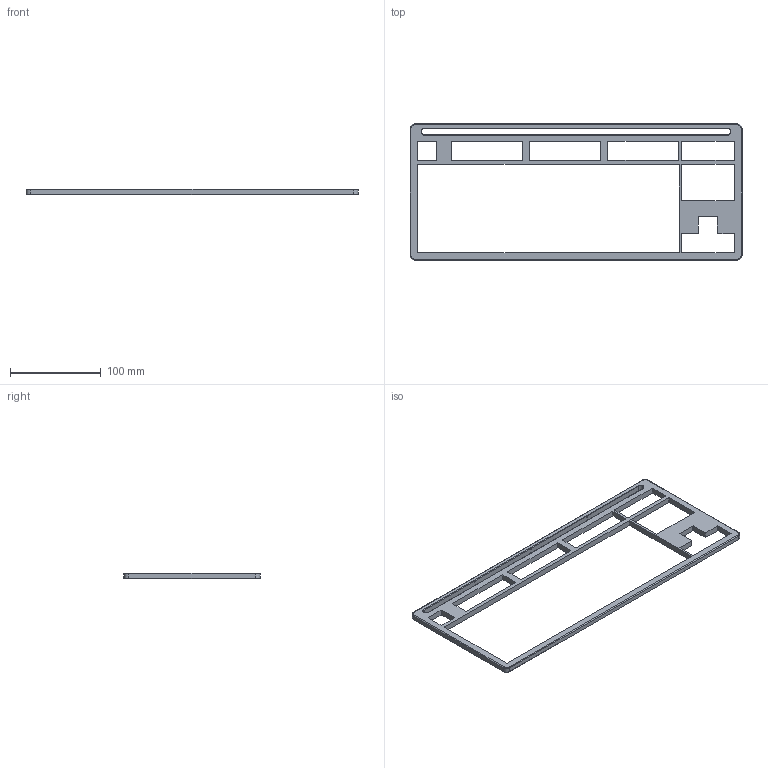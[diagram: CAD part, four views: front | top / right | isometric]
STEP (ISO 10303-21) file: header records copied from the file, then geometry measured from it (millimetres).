
FILE_DESCRIPTION(('HOOPS Exchange Step'),'2;1');
FILE_NAME('C:\Users\juanj\AppData\Local\Packages\Shapr3D.Shapr3D_j403pzjkqtqbj\TempState\export\temp_export','2024-12-14T23:59:03+01:00',('juanj'),('Shapr3D Limited'),'HOOPS Exchange 2024.6','Shapr3D','Authorized');
FILE_SCHEMA( ('AP242_MANAGED_MODEL_BASED_3D_ENGINEERING_MIM_LF {1 0 10303 442 1 1 4 }') );
Length unit declared in the file: millimetre
Products named in the file (1): Top
Bounding box: 365.66 x 149.82 x 6.6 mm (x, y, z)
Volume: 90371.6 mm3; surface area: 51609.1 mm2
Topology: 1 solids, 1 shells, 138 faces, 372 edges, 248 vertices
Faces by surface type: cylinder 60, plane 58, bspline 16, torus 4
Full cylindrical faces by diameter (mm): 3.75 x12
Entity records: 5080 total; most frequent: CARTESIAN_POINT 1496, DIRECTION 744, ORIENTED_EDGE 744, EDGE_CURVE 372, AXIS2_PLACEMENT_3D 272, VERTEX_POINT 248, VECTOR 200, LINE 200
